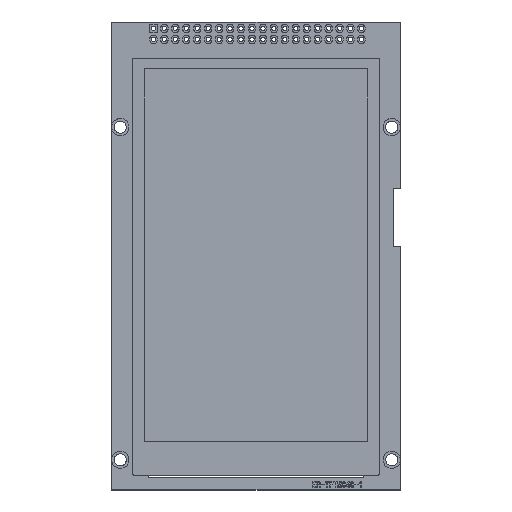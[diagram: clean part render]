
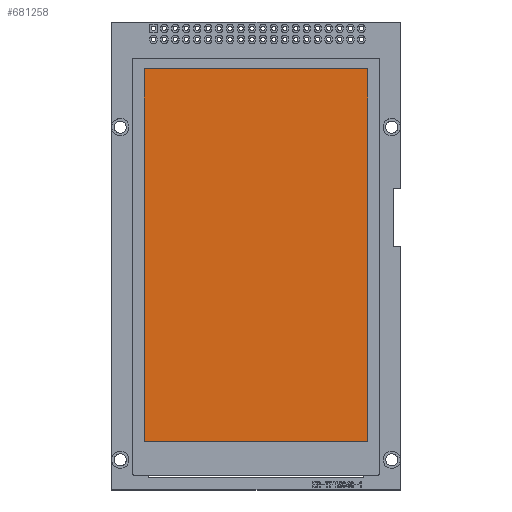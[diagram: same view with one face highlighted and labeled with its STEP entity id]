
A CAD part, top view. The second image highlights one B-rep face of the part: STEP entity #681258.
In plain terms, the highlighted free-form (B-spline) face has degree [1, 1] with [2, 2] control points.
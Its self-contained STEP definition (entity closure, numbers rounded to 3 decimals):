
#108=(GEOMETRIC_REPRESENTATION_CONTEXT(2)PARAMETRIC_REPRESENTATION_CONTEXT()REPRESENTATION_CONTEXT('',''));
#617149=CARTESIAN_POINT('',(7.58,11.295,0.8));
#617150=CARTESIAN_POINT('',(7.58,97.695,0.8));
#617151=CARTESIAN_POINT('',(7.58,11.295,3.15));
#617152=CARTESIAN_POINT('',(7.58,97.695,3.15));
#617153=B_SPLINE_SURFACE_WITH_KNOTS('',1,1,((#617149,#617150),(#617151,#617152)),.UNSPECIFIED.,.F.,.F.,.U.,(2,2),(2,2),(-0.002,0.),(0.011,0.098),.UNSPECIFIED.);
#617172=CARTESIAN_POINT('',(7.58,97.695,3.15));
#617173=CARTESIAN_POINT('',(59.42,97.695,3.15));
#617174=CARTESIAN_POINT('',(7.58,97.695,0.8));
#617175=CARTESIAN_POINT('',(59.42,97.695,0.8));
#617176=B_SPLINE_SURFACE_WITH_KNOTS('',1,1,((#617172,#617173),(#617174,#617175)),.UNSPECIFIED.,.F.,.F.,.U.,(2,2),(2,2),(0.,0.002),(0.008,0.059),.UNSPECIFIED.);
#617195=CARTESIAN_POINT('',(59.42,11.295,0.8));
#617196=CARTESIAN_POINT('',(59.42,97.695,0.8));
#617197=CARTESIAN_POINT('',(59.42,11.295,3.15));
#617198=CARTESIAN_POINT('',(59.42,97.695,3.15));
#617199=B_SPLINE_SURFACE_WITH_KNOTS('',1,1,((#617195,#617196),(#617197,#617198)),.UNSPECIFIED.,.F.,.F.,.U.,(2,2),(2,2),(-0.002,0.),(0.011,0.098),.UNSPECIFIED.);
#617216=CARTESIAN_POINT('',(7.58,11.295,3.15));
#617217=CARTESIAN_POINT('',(59.42,11.295,3.15));
#617218=CARTESIAN_POINT('',(7.58,11.295,0.8));
#617219=CARTESIAN_POINT('',(59.42,11.295,0.8));
#617220=B_SPLINE_SURFACE_WITH_KNOTS('',1,1,((#617216,#617217),(#617218,#617219)),.UNSPECIFIED.,.F.,.F.,.U.,(2,2),(2,2),(0.,0.002),(0.008,0.059),.UNSPECIFIED.);
#681092=CARTESIAN_POINT('',(7.58,97.695,3.15));
#681093=VERTEX_POINT('',#681092);
#681110=CARTESIAN_POINT('',(59.42,97.695,3.15));
#681111=VERTEX_POINT('',#681110);
#681112=CARTESIAN_POINT('',(59.42,11.295,3.15));
#681113=CARTESIAN_POINT('',(59.42,97.695,3.15));
#681114=CARTESIAN_POINT('',(7.58,11.295,3.15));
#681115=CARTESIAN_POINT('',(7.58,97.695,3.15));
#681116=B_SPLINE_SURFACE_WITH_KNOTS('',1,1,((#681112,#681113),(#681114,#681115)),.UNSPECIFIED.,.F.,.F.,.U.,(2,2),(2,2),(-0.059,-0.008),(0.011,0.098),.UNSPECIFIED.);
#681117=CARTESIAN_POINT('',(0.,0.059));
#681118=CARTESIAN_POINT('',(0.,0.008));
#681119=B_SPLINE_CURVE_WITH_KNOTS('',1,(#681117,#681118),.UNSPECIFIED.,.F.,.F.,(2,2),(-0.059,-0.008),.UNSPECIFIED.);
#681120=DEFINITIONAL_REPRESENTATION('',(#681119),#108);
#681121=PCURVE('',#617176,#681120);
#681122=CARTESIAN_POINT('',(-0.059,0.098));
#681123=CARTESIAN_POINT('',(-0.008,0.098));
#681124=B_SPLINE_CURVE_WITH_KNOTS('',1,(#681122,#681123),.UNSPECIFIED.,.F.,.F.,(2,2),(-0.059,-0.008),.UNSPECIFIED.);
#681125=DEFINITIONAL_REPRESENTATION('',(#681124),#108);
#681126=PCURVE('',#681116,#681125);
#681127=CARTESIAN_POINT('',(59.42,97.695,3.15));
#681128=CARTESIAN_POINT('',(7.58,97.695,3.15));
#681129=B_SPLINE_CURVE_WITH_KNOTS('',1,(#681127,#681128),.UNSPECIFIED.,.F.,.F.,(2,2),(-0.059,-0.008),.UNSPECIFIED.);
#681130=INTERSECTION_CURVE('',#681129,(#681121,#681126),.PCURVE_S1.);
#681131=EDGE_CURVE('',#681111,#681093,#681130,.T.);
#681153=CARTESIAN_POINT('',(7.58,11.295,3.15));
#681154=VERTEX_POINT('',#681153);
#681171=CARTESIAN_POINT('',(0.,0.011));
#681172=CARTESIAN_POINT('',(0.,0.098));
#681173=B_SPLINE_CURVE_WITH_KNOTS('',1,(#681171,#681172),.UNSPECIFIED.,.F.,.F.,(2,2),(0.011,0.098),.UNSPECIFIED.);
#681174=DEFINITIONAL_REPRESENTATION('',(#681173),#108);
#681175=PCURVE('',#617153,#681174);
#681176=CARTESIAN_POINT('',(-0.008,0.011));
#681177=CARTESIAN_POINT('',(-0.008,0.098));
#681178=B_SPLINE_CURVE_WITH_KNOTS('',1,(#681176,#681177),.UNSPECIFIED.,.F.,.F.,(2,2),(0.011,0.098),.UNSPECIFIED.);
#681179=DEFINITIONAL_REPRESENTATION('',(#681178),#108);
#681180=PCURVE('',#681116,#681179);
#681181=CARTESIAN_POINT('',(7.58,11.295,3.15));
#681182=CARTESIAN_POINT('',(7.58,97.695,3.15));
#681183=B_SPLINE_CURVE_WITH_KNOTS('',1,(#681181,#681182),.UNSPECIFIED.,.F.,.F.,(2,2),(0.011,0.098),.UNSPECIFIED.);
#681184=INTERSECTION_CURVE('',#681183,(#681175,#681180),.PCURVE_S1.);
#681185=EDGE_CURVE('',#681154,#681093,#681184,.T.);
#681192=CARTESIAN_POINT('',(59.42,11.295,3.15));
#681193=VERTEX_POINT('',#681192);
#681210=CARTESIAN_POINT('',(0.,0.059));
#681211=CARTESIAN_POINT('',(0.,0.008));
#681212=B_SPLINE_CURVE_WITH_KNOTS('',1,(#681210,#681211),.UNSPECIFIED.,.F.,.F.,(2,2),(-0.059,-0.008),.UNSPECIFIED.);
#681213=DEFINITIONAL_REPRESENTATION('',(#681212),#108);
#681214=PCURVE('',#617220,#681213);
#681215=CARTESIAN_POINT('',(-0.059,0.011));
#681216=CARTESIAN_POINT('',(-0.008,0.011));
#681217=B_SPLINE_CURVE_WITH_KNOTS('',1,(#681215,#681216),.UNSPECIFIED.,.F.,.F.,(2,2),(-0.059,-0.008),.UNSPECIFIED.);
#681218=DEFINITIONAL_REPRESENTATION('',(#681217),#108);
#681219=PCURVE('',#681116,#681218);
#681220=CARTESIAN_POINT('',(59.42,11.295,3.15));
#681221=CARTESIAN_POINT('',(7.58,11.295,3.15));
#681222=B_SPLINE_CURVE_WITH_KNOTS('',1,(#681220,#681221),.UNSPECIFIED.,.F.,.F.,(2,2),(-0.059,-0.008),.UNSPECIFIED.);
#681223=INTERSECTION_CURVE('',#681222,(#681214,#681219),.PCURVE_S1.);
#681224=EDGE_CURVE('',#681193,#681154,#681223,.T.);
#681232=CARTESIAN_POINT('',(0.,0.011));
#681233=CARTESIAN_POINT('',(0.,0.098));
#681234=B_SPLINE_CURVE_WITH_KNOTS('',1,(#681232,#681233),.UNSPECIFIED.,.F.,.F.,(2,2),(0.011,0.098),.UNSPECIFIED.);
#681235=DEFINITIONAL_REPRESENTATION('',(#681234),#108);
#681236=PCURVE('',#617199,#681235);
#681237=CARTESIAN_POINT('',(-0.059,0.011));
#681238=CARTESIAN_POINT('',(-0.059,0.098));
#681239=B_SPLINE_CURVE_WITH_KNOTS('',1,(#681237,#681238),.UNSPECIFIED.,.F.,.F.,(2,2),(0.011,0.098),.UNSPECIFIED.);
#681240=DEFINITIONAL_REPRESENTATION('',(#681239),#108);
#681241=PCURVE('',#681116,#681240);
#681242=CARTESIAN_POINT('',(59.42,11.295,3.15));
#681243=CARTESIAN_POINT('',(59.42,97.695,3.15));
#681244=B_SPLINE_CURVE_WITH_KNOTS('',1,(#681242,#681243),.UNSPECIFIED.,.F.,.F.,(2,2),(0.011,0.098),.UNSPECIFIED.);
#681245=INTERSECTION_CURVE('',#681244,(#681236,#681241),.PCURVE_S1.);
#681246=EDGE_CURVE('',#681193,#681111,#681245,.T.);
#681252=ORIENTED_EDGE('',*,*,#681131,.T.);
#681253=ORIENTED_EDGE('',*,*,#681185,.F.);
#681254=ORIENTED_EDGE('',*,*,#681224,.F.);
#681255=ORIENTED_EDGE('',*,*,#681246,.T.);
#681256=EDGE_LOOP('',(#681252,#681253,#681254,#681255));
#681257=FACE_BOUND('',#681256,.T.);
#681258=ADVANCED_FACE('',(#681257),#681116,.F.);
